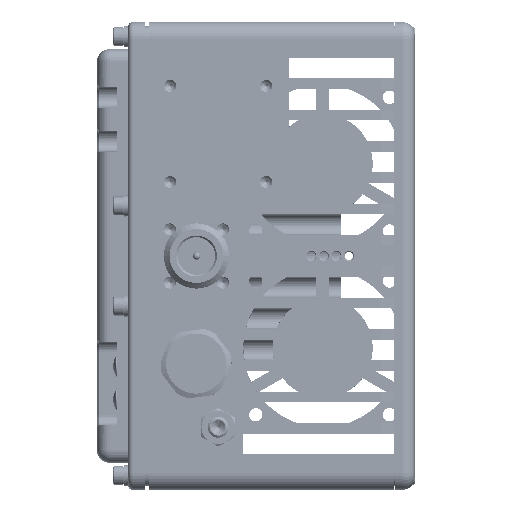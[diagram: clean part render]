
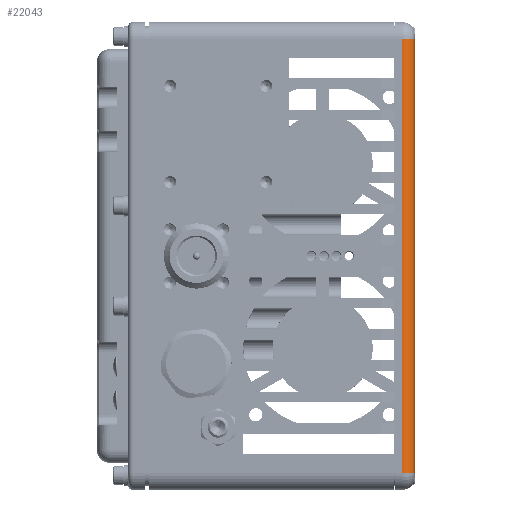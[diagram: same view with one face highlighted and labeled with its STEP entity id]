
A CAD part, left-side view. The second image highlights one B-rep face of the part: STEP entity #22043.
In plain terms, the highlighted cylindrical face has radius 3 mm (diameter 6 mm), a partial arc.
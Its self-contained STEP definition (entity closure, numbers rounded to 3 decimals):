
#2165 = ORIENTED_EDGE ( 'NONE', *, *, #62369, .T. ) ;
#3711 = EDGE_CURVE ( 'NONE', #54751, #56970, #78597, .T. ) ;
#4331 = VECTOR ( 'NONE', #80897, 1000. ) ;
#4601 = CARTESIAN_POINT ( 'NONE',  ( -76.5, -5., -52. ) ) ;
#5505 = CARTESIAN_POINT ( 'NONE',  ( -76.5, -5., -52. ) ) ;
#5646 = CARTESIAN_POINT ( 'NONE',  ( -76.5, -2., 52. ) ) ;
#7784 = ORIENTED_EDGE ( 'NONE', *, *, #3711, .F. ) ;
#9175 = DIRECTION ( 'NONE',  ( 0., 0., -1. ) ) ;
#12022 = CARTESIAN_POINT ( 'NONE',  ( -76.5, -5., 52. ) ) ;
#12315 = CYLINDRICAL_SURFACE ( 'NONE', #96049, 3. ) ;
#18990 = DIRECTION ( 'NONE',  ( 1., 0., 0. ) ) ;
#20581 = CARTESIAN_POINT ( 'NONE',  ( -79.5, -2., 52. ) ) ;
#22043 = ADVANCED_FACE ( 'NONE', ( #51885 ), #12315, .T. ) ;
#22582 = AXIS2_PLACEMENT_3D ( 'NONE', #59517, #91703, #61479 ) ;
#23872 = VERTEX_POINT ( 'NONE', #5505 ) ;
#28942 = CIRCLE ( 'NONE', #22582, 3. ) ;
#31004 = CARTESIAN_POINT ( 'NONE',  ( -76.5, -2., -56. ) ) ;
#32185 = EDGE_CURVE ( 'NONE', #57243, #23872, #57617, .T. ) ;
#34177 = CIRCLE ( 'NONE', #35769, 3. ) ;
#35769 = AXIS2_PLACEMENT_3D ( 'NONE', #5646, #65086, #18990 ) ;
#44966 = EDGE_LOOP ( 'NONE', ( #2165, #48919, #95557, #7784 ) ) ;
#48919 = ORIENTED_EDGE ( 'NONE', *, *, #32185, .F. ) ;
#51885 = FACE_OUTER_BOUND ( 'NONE', #44966, .T. ) ;
#54751 = VERTEX_POINT ( 'NONE', #61582 ) ;
#56970 = VERTEX_POINT ( 'NONE', #20581 ) ;
#57243 = VERTEX_POINT ( 'NONE', #12022 ) ;
#57617 = LINE ( 'NONE', #4601, #4331 ) ;
#59517 = CARTESIAN_POINT ( 'NONE',  ( -76.5, -2., -52. ) ) ;
#61479 = DIRECTION ( 'NONE',  ( 1., 0., 0. ) ) ;
#61582 = CARTESIAN_POINT ( 'NONE',  ( -79.5, -2., -52. ) ) ;
#62369 = EDGE_CURVE ( 'NONE', #54751, #23872, #28942, .T. ) ;
#62781 = DIRECTION ( 'NONE',  ( 0., 0., 1. ) ) ;
#63068 = VECTOR ( 'NONE', #62781, 1000. ) ;
#65086 = DIRECTION ( 'NONE',  ( 0., 0., 1. ) ) ;
#70710 = CARTESIAN_POINT ( 'NONE',  ( -79.5, -2., 52. ) ) ;
#77539 = DIRECTION ( 'NONE',  ( -1., 0., 0. ) ) ;
#78597 = LINE ( 'NONE', #70710, #63068 ) ;
#80897 = DIRECTION ( 'NONE',  ( 0., 0., -1. ) ) ;
#84530 = EDGE_CURVE ( 'NONE', #56970, #57243, #34177, .T. ) ;
#91703 = DIRECTION ( 'NONE',  ( 0., 0., 1. ) ) ;
#95557 = ORIENTED_EDGE ( 'NONE', *, *, #84530, .F. ) ;
#96049 = AXIS2_PLACEMENT_3D ( 'NONE', #31004, #9175, #77539 ) ;
